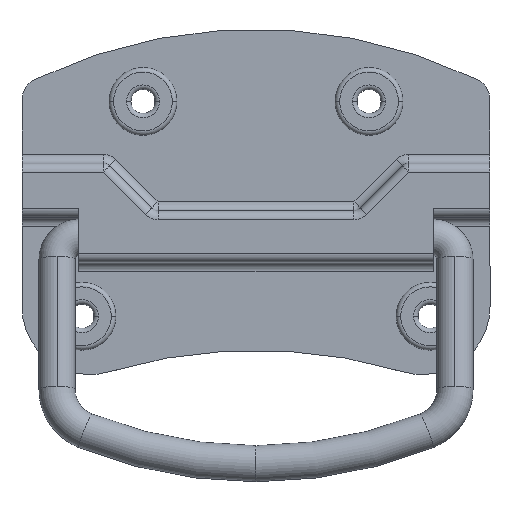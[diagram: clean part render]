
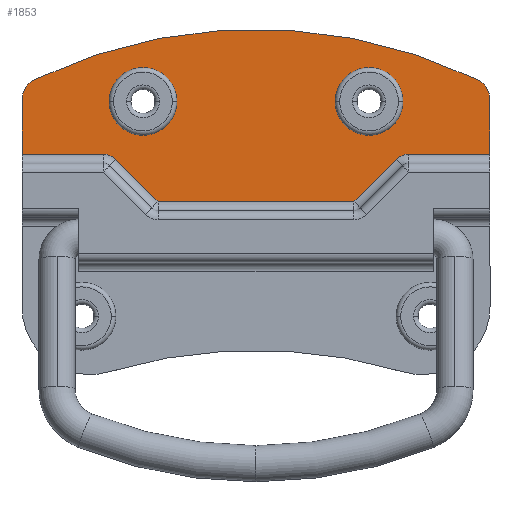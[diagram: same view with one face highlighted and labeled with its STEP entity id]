
A CAD part, top view. The second image highlights one B-rep face of the part: STEP entity #1853.
In plain terms, the highlighted planar face has unit normal (0, 0, 1).
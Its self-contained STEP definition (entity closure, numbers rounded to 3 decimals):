
#13 = DIRECTION ( 'NONE',  ( 0.707, 0.707, 0. ) ) ;
#45 = DIRECTION ( 'NONE',  ( 1., 0., 0. ) ) ;
#87 = FACE_BOUND ( 'NONE', #3269, .T. ) ;
#98 = CIRCLE ( 'NONE', #3065, 5. ) ;
#121 = CARTESIAN_POINT ( 'NONE',  ( -17.5, 55., 1.2 ) ) ;
#157 = CIRCLE ( 'NONE', #375, 4. ) ;
#170 = CARTESIAN_POINT ( 'NONE',  ( 33.828, 43.357, 1.2 ) ) ;
#211 = DIRECTION ( 'NONE',  ( 1., 0., 0. ) ) ;
#292 = LINE ( 'NONE', #4136, #2464 ) ;
#337 = VERTEX_POINT ( 'NONE', #4752 ) ;
#350 = VERTEX_POINT ( 'NONE', #3929 ) ;
#360 = CARTESIAN_POINT ( 'NONE',  ( -25., 55., 1.2 ) ) ;
#375 = AXIS2_PLACEMENT_3D ( 'NONE', #1254, #4134, #1656 ) ;
#413 = DIRECTION ( 'NONE',  ( 1., 0., 0. ) ) ;
#578 = VERTEX_POINT ( 'NONE', #1800 ) ;
#594 = LINE ( 'NONE', #613, #2648 ) ;
#613 = CARTESIAN_POINT ( 'NONE',  ( 0., 32.857, 1.2 ) ) ;
#641 = VERTEX_POINT ( 'NONE', #170 ) ;
#645 = VERTEX_POINT ( 'NONE', #2196 ) ;
#649 = DIRECTION ( 'NONE',  ( 0., 0., 1. ) ) ;
#671 = ORIENTED_EDGE ( 'NONE', *, *, #4544, .F. ) ;
#672 = ORIENTED_EDGE ( 'NONE', *, *, #2860, .T. ) ;
#687 = PLANE ( 'NONE',  #3588 ) ;
#711 = DIRECTION ( 'NONE',  ( 1., 0., 0. ) ) ;
#731 = AXIS2_PLACEMENT_3D ( 'NONE', #3108, #649, #3526 ) ;
#753 = CARTESIAN_POINT ( 'NONE',  ( -51.75, 55.357, 1.2 ) ) ;
#768 = CARTESIAN_POINT ( 'NONE',  ( 46.75, 55.357, 1.2 ) ) ;
#773 = ORIENTED_EDGE ( 'NONE', *, *, #2889, .F. ) ;
#774 = DIRECTION ( 'NONE',  ( 1., 0., 0. ) ) ;
#782 = EDGE_CURVE ( 'NONE', #870, #4507, #3442, .T. ) ;
#808 = EDGE_LOOP ( 'NONE', ( #4037, #5073 ) ) ;
#870 = VERTEX_POINT ( 'NONE', #3472 ) ;
#963 = EDGE_CURVE ( 'NONE', #4512, #2530, #3753, .T. ) ;
#996 = VERTEX_POINT ( 'NONE', #1694 ) ;
#1043 = CARTESIAN_POINT ( 'NONE',  ( 51.75, 0., 1.2 ) ) ;
#1046 = LINE ( 'NONE', #1137, #4203 ) ;
#1062 = CIRCLE ( 'NONE', #3907, 5. ) ;
#1101 = DIRECTION ( 'NONE',  ( 0., 0., 1. ) ) ;
#1137 = CARTESIAN_POINT ( 'NONE',  ( -51.75, 0., 1.2 ) ) ;
#1195 = DIRECTION ( 'NONE',  ( 1., 0., 0. ) ) ;
#1239 = VERTEX_POINT ( 'NONE', #3551 ) ;
#1253 = VECTOR ( 'NONE', #3930, 1000. ) ;
#1254 = CARTESIAN_POINT ( 'NONE',  ( 33.828, 39.357, 1.2 ) ) ;
#1286 = ORIENTED_EDGE ( 'NONE', *, *, #4431, .T. ) ;
#1357 = CARTESIAN_POINT ( 'NONE',  ( 25., 55., 1.2 ) ) ;
#1471 = EDGE_CURVE ( 'NONE', #1915, #996, #3822, .T. ) ;
#1484 = CARTESIAN_POINT ( 'NONE',  ( 5.593, 5.593, 1.2 ) ) ;
#1576 = CARTESIAN_POINT ( 'NONE',  ( -21.672, 32.857, 1.2 ) ) ;
#1595 = ORIENTED_EDGE ( 'NONE', *, *, #5294, .T. ) ;
#1621 = LINE ( 'NONE', #4533, #3555 ) ;
#1634 = EDGE_CURVE ( 'NONE', #641, #1239, #157, .T. ) ;
#1656 = DIRECTION ( 'NONE',  ( 1., 0., 0. ) ) ;
#1666 = ORIENTED_EDGE ( 'NONE', *, *, #3540, .T. ) ;
#1694 = CARTESIAN_POINT ( 'NONE',  ( 32.5, 55., 1.2 ) ) ;
#1762 = DIRECTION ( 'NONE',  ( 1., 0., 0. ) ) ;
#1786 = EDGE_CURVE ( 'NONE', #4507, #337, #594, .T. ) ;
#1800 = CARTESIAN_POINT ( 'NONE',  ( -33.828, 43.357, 1.2 ) ) ;
#1853 = ADVANCED_FACE ( 'NONE', ( #3361, #4476, #87 ), #687, .T. ) ;
#1915 = VERTEX_POINT ( 'NONE', #4447 ) ;
#1969 = VERTEX_POINT ( 'NONE', #753 ) ;
#2036 = DIRECTION ( 'NONE',  ( 0., 0., 1. ) ) ;
#2069 = EDGE_CURVE ( 'NONE', #641, #4512, #1621, .T. ) ;
#2088 = AXIS2_PLACEMENT_3D ( 'NONE', #4995, #2496, #45 ) ;
#2196 = CARTESIAN_POINT ( 'NONE',  ( -51.75, 43.357, 1.2 ) ) ;
#2312 = CARTESIAN_POINT ( 'NONE',  ( 0., 0., 1.2 ) ) ;
#2373 = DIRECTION ( 'NONE',  ( 0., 0., 1. ) ) ;
#2403 = AXIS2_PLACEMENT_3D ( 'NONE', #4869, #2373, #5284 ) ;
#2412 = AXIS2_PLACEMENT_3D ( 'NONE', #360, #3243, #774 ) ;
#2435 = DIRECTION ( 'NONE',  ( 0., 0., 1. ) ) ;
#2464 = VECTOR ( 'NONE', #13, 1000. ) ;
#2496 = DIRECTION ( 'NONE',  ( 0., 0., 1. ) ) ;
#2530 = VERTEX_POINT ( 'NONE', #2966 ) ;
#2557 = VERTEX_POINT ( 'NONE', #121 ) ;
#2560 = EDGE_CURVE ( 'NONE', #996, #1915, #2604, .T. ) ;
#2604 = CIRCLE ( 'NONE', #2999, 7.5 ) ;
#2648 = VECTOR ( 'NONE', #211, 1000. ) ;
#2657 = VECTOR ( 'NONE', #3107, 1000. ) ;
#2742 = CIRCLE ( 'NONE', #2088, 113. ) ;
#2812 = EDGE_CURVE ( 'NONE', #2530, #350, #98, .T. ) ;
#2834 = ORIENTED_EDGE ( 'NONE', *, *, #5152, .F. ) ;
#2860 = EDGE_CURVE ( 'NONE', #2956, #1969, #1062, .T. ) ;
#2889 = EDGE_CURVE ( 'NONE', #2557, #5109, #5322, .T. ) ;
#2956 = VERTEX_POINT ( 'NONE', #3739 ) ;
#2966 = CARTESIAN_POINT ( 'NONE',  ( 51.75, 55.357, 1.2 ) ) ;
#2999 = AXIS2_PLACEMENT_3D ( 'NONE', #1357, #4240, #1762 ) ;
#3065 = AXIS2_PLACEMENT_3D ( 'NONE', #768, #3651, #1195 ) ;
#3078 = ORIENTED_EDGE ( 'NONE', *, *, #782, .T. ) ;
#3107 = DIRECTION ( 'NONE',  ( 0., 1., 0. ) ) ;
#3108 = CARTESIAN_POINT ( 'NONE',  ( -33.828, 39.357, 1.2 ) ) ;
#3243 = DIRECTION ( 'NONE',  ( 0., 0., 1. ) ) ;
#3269 = EDGE_LOOP ( 'NONE', ( #671, #773 ) ) ;
#3361 = FACE_BOUND ( 'NONE', #808, .T. ) ;
#3369 = ORIENTED_EDGE ( 'NONE', *, *, #1786, .T. ) ;
#3442 = LINE ( 'NONE', #1484, #1253 ) ;
#3472 = CARTESIAN_POINT ( 'NONE',  ( -31., 42.186, 1.2 ) ) ;
#3473 = CARTESIAN_POINT ( 'NONE',  ( -32.5, 55., 1.2 ) ) ;
#3525 = EDGE_CURVE ( 'NONE', #337, #1239, #292, .T. ) ;
#3526 = DIRECTION ( 'NONE',  ( 1., 0., 0. ) ) ;
#3540 = EDGE_CURVE ( 'NONE', #350, #2956, #2742, .T. ) ;
#3551 = CARTESIAN_POINT ( 'NONE',  ( 31., 42.186, 1.2 ) ) ;
#3555 = VECTOR ( 'NONE', #413, 1000. ) ;
#3575 = CARTESIAN_POINT ( 'NONE',  ( 0., 43.357, 1.2 ) ) ;
#3588 = AXIS2_PLACEMENT_3D ( 'NONE', #2312, #1101, #3992 ) ;
#3613 = DIRECTION ( 'NONE',  ( 0., -1., 0. ) ) ;
#3617 = VECTOR ( 'NONE', #711, 1000. ) ;
#3619 = CIRCLE ( 'NONE', #731, 4. ) ;
#3620 = CARTESIAN_POINT ( 'NONE',  ( 51.75, 43.357, 1.2 ) ) ;
#3651 = DIRECTION ( 'NONE',  ( 0., 0., 1. ) ) ;
#3663 = EDGE_LOOP ( 'NONE', ( #5175, #3794, #4414, #4014, #1666, #672, #1595, #1286, #2834, #3078, #3369, #5010 ) ) ;
#3739 = CARTESIAN_POINT ( 'NONE',  ( -48.914, 59.865, 1.2 ) ) ;
#3753 = LINE ( 'NONE', #1043, #2657 ) ;
#3794 = ORIENTED_EDGE ( 'NONE', *, *, #2069, .T. ) ;
#3822 = CIRCLE ( 'NONE', #2403, 7.5 ) ;
#3907 = AXIS2_PLACEMENT_3D ( 'NONE', #4936, #2435, #5344 ) ;
#3929 = CARTESIAN_POINT ( 'NONE',  ( 48.914, 59.865, 1.2 ) ) ;
#3930 = DIRECTION ( 'NONE',  ( 0.707, -0.707, 0. ) ) ;
#3992 = DIRECTION ( 'NONE',  ( 1., 0., 0. ) ) ;
#4014 = ORIENTED_EDGE ( 'NONE', *, *, #2812, .T. ) ;
#4037 = ORIENTED_EDGE ( 'NONE', *, *, #1471, .F. ) ;
#4134 = DIRECTION ( 'NONE',  ( 0., 0., 1. ) ) ;
#4136 = CARTESIAN_POINT ( 'NONE',  ( -5.593, 5.593, 1.2 ) ) ;
#4203 = VECTOR ( 'NONE', #3613, 1000. ) ;
#4240 = DIRECTION ( 'NONE',  ( 0., 0., 1. ) ) ;
#4414 = ORIENTED_EDGE ( 'NONE', *, *, #963, .T. ) ;
#4431 = EDGE_CURVE ( 'NONE', #645, #578, #4731, .T. ) ;
#4447 = CARTESIAN_POINT ( 'NONE',  ( 17.5, 55., 1.2 ) ) ;
#4470 = AXIS2_PLACEMENT_3D ( 'NONE', #4530, #2036, #4954 ) ;
#4473 = CIRCLE ( 'NONE', #2412, 7.5 ) ;
#4476 = FACE_OUTER_BOUND ( 'NONE', #3663, .T. ) ;
#4507 = VERTEX_POINT ( 'NONE', #1576 ) ;
#4512 = VERTEX_POINT ( 'NONE', #3620 ) ;
#4530 = CARTESIAN_POINT ( 'NONE',  ( -25., 55., 1.2 ) ) ;
#4533 = CARTESIAN_POINT ( 'NONE',  ( 0., 43.357, 1.2 ) ) ;
#4544 = EDGE_CURVE ( 'NONE', #5109, #2557, #4473, .T. ) ;
#4731 = LINE ( 'NONE', #3575, #3617 ) ;
#4752 = CARTESIAN_POINT ( 'NONE',  ( 21.672, 32.857, 1.2 ) ) ;
#4869 = CARTESIAN_POINT ( 'NONE',  ( 25., 55., 1.2 ) ) ;
#4936 = CARTESIAN_POINT ( 'NONE',  ( -46.75, 55.357, 1.2 ) ) ;
#4954 = DIRECTION ( 'NONE',  ( 1., 0., 0. ) ) ;
#4995 = CARTESIAN_POINT ( 'NONE',  ( 0., -42., 1.2 ) ) ;
#5010 = ORIENTED_EDGE ( 'NONE', *, *, #3525, .T. ) ;
#5073 = ORIENTED_EDGE ( 'NONE', *, *, #2560, .F. ) ;
#5109 = VERTEX_POINT ( 'NONE', #3473 ) ;
#5152 = EDGE_CURVE ( 'NONE', #870, #578, #3619, .T. ) ;
#5175 = ORIENTED_EDGE ( 'NONE', *, *, #1634, .F. ) ;
#5284 = DIRECTION ( 'NONE',  ( 1., 0., 0. ) ) ;
#5294 = EDGE_CURVE ( 'NONE', #1969, #645, #1046, .T. ) ;
#5322 = CIRCLE ( 'NONE', #4470, 7.5 ) ;
#5344 = DIRECTION ( 'NONE',  ( 1., 0., 0. ) ) ;
